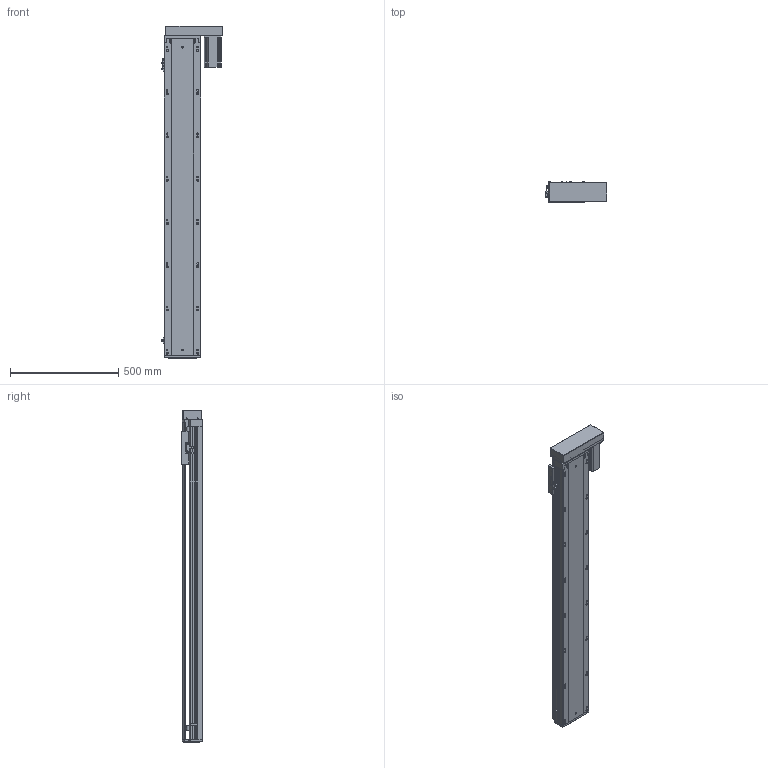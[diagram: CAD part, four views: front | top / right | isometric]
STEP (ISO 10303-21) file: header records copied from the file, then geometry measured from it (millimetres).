
FILE_DESCRIPTION (( 'STEP AP203' ), '1' );
FILE_NAME ('RY170-L2510-1400-RK.SLDASM_1200.step', '2021-03-12T09:38:03', ( '盈信电脑' ), ( '东莞市道滘镇水果街19号' ), 'SwSTEP 2.0', 'SolidWorks 2012', '' );
FILE_SCHEMA (( 'CONFIG_CONTROL_DESIGN' ));
Length unit declared in the file: millimetre
Products named in the file (13): RY170外置感应片(200共用）; RY170-L2510-1400-RK.SLDASM_1200; RY170酘衵殏萇儂欶750W; 覜茼ん672; RY170-酘衵殏750W萇儂傷; 怢湛750W萇儂ㄗ80遺ㄘ; RY170-左右折电机安装板750W; RY170转折电机端支撑座(7004); 滅袉蝶18-20; RY170-1400倰第菁釱-LK_1200; RY170-1400倰第裔啣-LK_1200; 改造-RY170铝滑块25丝杆螺母; RY170綴裔啣
Assembly tree (15 placements, depth 3):
  RY170-L2510-1400-RK.SLDASM_1200
    RY170-1400倰第菁釱-LK_1200
    改造-RY170铝滑块25丝杆螺母
    RY170-1400倰第裔啣-LK_1200
    RY170綴裔啣
    滅袉蝶18-20  x2
    RY170转折电机端支撑座(7004)
    RY170-酘衵殏750W萇儂傷
      RY170-左右折电机安装板750W
      RY170酘衵殏萇儂欶750W
      怢湛750W萇儂ㄗ80遺ㄘ
    覜茼ん672  x3
    RY170外置感应片(200共用）
Bounding box: 286.2 x 97 x 1535 mm (x, y, z)
Volume: 8174729.4 mm3; surface area: 2592911.1 mm2
Topology: 14 solids, 14 shells, 2253 faces, 6458 edges, 4132 vertices
Faces by surface type: plane 1090, cylinder 942, cone 202, bspline 19
Entity records: 72610 total; most frequent: CARTESIAN_POINT 17505, ORIENTED_EDGE 11568, DIRECTION 10728, EDGE_CURVE 5784, VERTEX_POINT 3800, AXIS2_PLACEMENT_3D 3593, LINE 3542, VECTOR 3542
